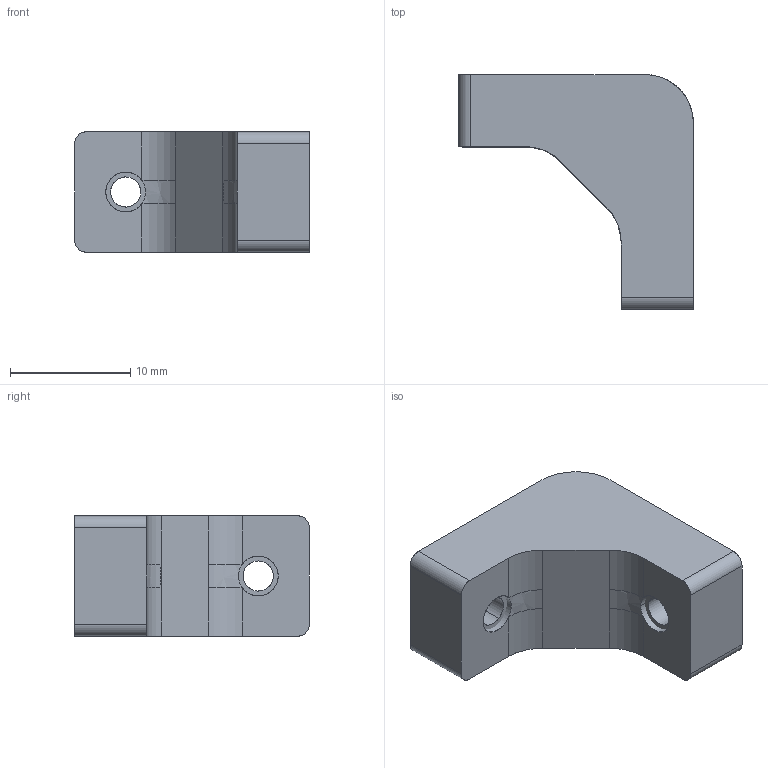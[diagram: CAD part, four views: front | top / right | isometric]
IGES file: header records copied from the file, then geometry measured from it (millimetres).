
Start section: SolidWorks IGES file using analytic representation for surfaces
Global section: file name: C:\Users\tahsi\Desktop\SMD\3D tasarýmlar\Building Set\Parts\1-90° Joint\90° Joint.IGS; native system: SolidWorks 2023; preprocessor: SolidWorks 2023; author: tahsi; date: 240626.105727; units: millimetre
Bounding box: 19.51 x 19.51 x 10 mm (x, y, z)
Surface area: 1670.6 mm2 (no closed solid volume)
Topology: 0 solids, 0 shells, 612 faces, 3352 edges, 3352 vertices
Faces by surface type: bspline 447, revolution 165
